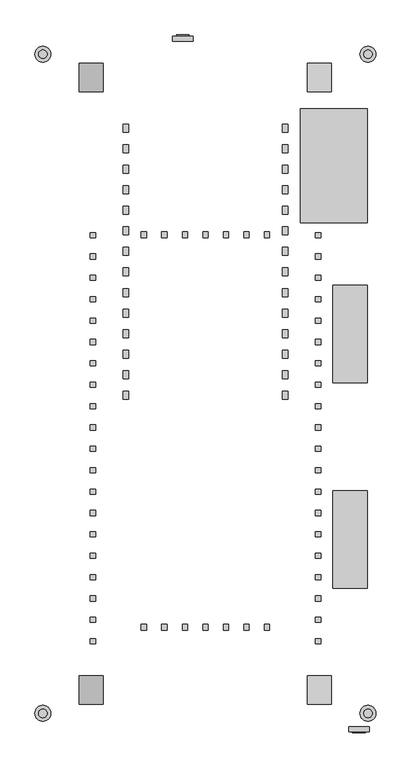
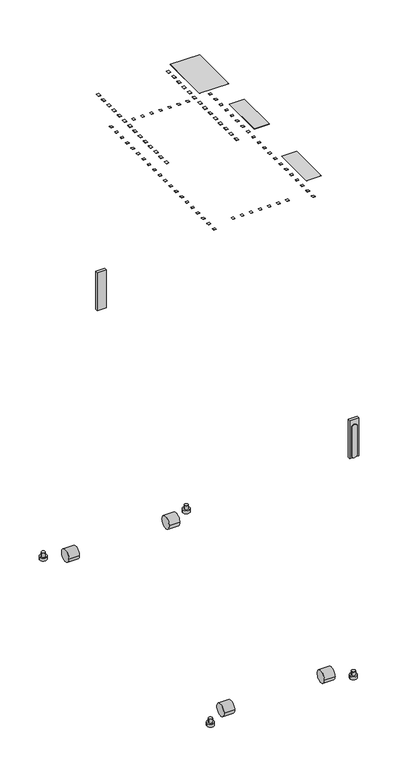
"""IFC4 building model written with IfcOpenShell, lengths in millimetres: proxy geometry, NetShelter_SX_Series_Rack_Enclosure_Schneider_Electric_BIM_Model : AR3300 - NetShelter SX, 42U, 600mm Wide X 1200mm Depth."""

from ifc_helpers import new_model, si_unit, point, frame, frame_2d, origin, place, context, project, spatial, polyline, circle_curve, trimmed, segment, composite_curve, outline, extrude, source, transform, mapped, element, save
from ifc_brep_helpers import plane_surface, cylinder_surface, advanced_brep


def mechanical_equipment_0b4dd9fd(model_context):
    return source(origin(), model_context, "Body", "SolidModel", [
        extrude(outline(polyline([(166.5, 547.0), (283.5, 547.0), (283.5, 347.0), (166.5, 347.0), (166.5, 547.0)])), frame((0.0, 0.0, 1991.0), z_axis=(0.0, 0.0, 1.0), x_axis=(1.0, 0.0, 0.0)), (0.0, 0.0, 1.0), 1.0),
        extrude(outline(polyline([(283.5, 238.0), (283.5, 67.0), (223.5, 67.0), (223.5, 238.0), (283.5, 238.0)])), frame((0.0, 0.0, 1991.0), z_axis=(0.0, 0.0, 1.0), x_axis=(1.0, 0.0, 0.0)), (0.0, 0.0, 1.0), 1.0),
        extrude(outline(polyline([(283.5, -122.0), (283.5, -293.0), (223.5, -293.0), (223.5, -122.0), (283.5, -122.0)])), frame((0.0, 0.0, 1991.0), z_axis=(0.0, 0.0, 1.0), x_axis=(1.0, 0.0, 0.0)), (0.0, 0.0, 1.0), 1.0),
        extrude(outline(composite_curve([segment(trimmed(circle_curve(frame_2d((-470.5, 25.0)), 25.0), [point((-495.5, 25.0))], [point((-445.5, 25.0))], False, "CARTESIAN"), True, "CONTINUOUS"), segment(trimmed(circle_curve(frame_2d((-470.5, 25.0)), 25.0), [point((-445.5, 25.0))], [point((-495.5, 25.0))], False, "CARTESIAN"), True, "CONTINUOUS")], self_intersect=False)), frame((-221.0, 0.0, 0.0), z_axis=(1.0, 0.0, 0.0), x_axis=(0.0, 1.0, 0.0)), (0.0, 0.0, 1.0), 42.0),
        extrude(outline(composite_curve([segment(trimmed(circle_curve(frame_2d((-470.5, 25.0)), 25.0), [point((-495.5, 25.0))], [point((-445.5, 25.0))], False, "CARTESIAN"), True, "CONTINUOUS"), segment(trimmed(circle_curve(frame_2d((-470.5, 25.0)), 25.0), [point((-445.5, 25.0))], [point((-495.5, 25.0))], False, "CARTESIAN"), True, "CONTINUOUS")], self_intersect=False)), frame((179.0, 0.0, 0.0), z_axis=(1.0, 0.0, 0.0), x_axis=(0.0, 1.0, 0.0)), (0.0, 0.0, 1.0), 42.0),
        extrude(outline(composite_curve([segment(trimmed(circle_curve(frame_2d((601.5, 25.0)), 25.0), [point((626.5, 25.0))], [point((576.5, 25.0))], False, "CARTESIAN"), True, "CONTINUOUS"), segment(trimmed(circle_curve(frame_2d((601.5, 25.0)), 25.0), [point((576.5, 25.0))], [point((626.5, 25.0))], False, "CARTESIAN"), True, "CONTINUOUS")], self_intersect=False)), frame((-221.0, 0.0, 0.0), z_axis=(1.0, 0.0, 0.0), x_axis=(0.0, 1.0, 0.0)), (0.0, 0.0, 1.0), 42.0),
        extrude(outline(composite_curve([segment(trimmed(circle_curve(frame_2d((601.5, 25.0)), 25.0), [point((626.5, 25.0))], [point((576.5, 25.0))], False, "CARTESIAN"), True, "CONTINUOUS"), segment(trimmed(circle_curve(frame_2d((601.5, 25.0)), 25.0), [point((576.5, 25.0))], [point((626.5, 25.0))], False, "CARTESIAN"), True, "CONTINUOUS")], self_intersect=False)), frame((179.0, 0.0, 0.0), z_axis=(1.0, 0.0, 0.0), x_axis=(0.0, 1.0, 0.0)), (0.0, 0.0, 1.0), 42.0),
        advanced_brep(
        [(251.3368526, -544.0499756, 1123.0590115), (251.3368526, -544.0499756, 963.0), (265.969139, -544.0499756, 963.0), (264.8974651, -544.0499756, 963.3154611), (262.9643537, -544.0499756, 964.3170777), (261.2655133, -544.0499756, 965.6659795), (257.9142777, -544.0499756, 973.9455005), (257.9142777, -544.0499756, 979.9131415), (257.9142777, -544.0499756, 981.4978364), (257.9142777, -544.0499756, 1091.5384088), (280.4225766, -544.0499756, 1091.5384088), (280.4225766, -544.0499756, 981.4978364), (280.4225766, -544.0499756, 979.9131415), (280.4225766, -544.0499756, 973.9455005), (277.071341, -544.0499756, 965.6659795), (275.3725006, -544.0499756, 964.3170777), (273.4393893, -544.0499756, 963.3154611), (272.3677154, -544.0499756, 963.0), (287.0, -544.0499756, 963.0), (287.0, -544.0499756, 1123.0590115), (251.3368526, -535.0499756, 1123.0590115), (287.0, -535.0499756, 1123.0590115), (287.0, -535.0499756, 963.0), (251.3368526, -535.0499756, 963.0), (277.071341, -546.0499756, 965.6659795), (280.4225766, -546.0499756, 973.9455005), (280.4225766, -546.0499756, 979.9131415), (280.4225766, -546.0499756, 981.4978364), (280.4225766, -546.0499756, 1091.5384088), (257.9142777, -546.0499756, 1091.5384088), (257.9142777, -546.0499756, 981.4978364), (257.9142777, -546.0499756, 979.9131415), (257.9142777, -546.0499756, 973.9455005), (261.2655133, -546.0499756, 965.6659795), (262.9643537, -546.0499756, 964.3170777), (264.8974651, -546.0499756, 963.3154611), (266.9918515, -546.0499756, 962.6989514), (269.1684272, -546.0499756, 962.4908285), (271.3450029, -546.0499756, 962.6989514), (273.4393893, -546.0499756, 963.3154611), (275.3725006, -546.0499756, 964.3170777), (266.9918515, -544.0499756, 962.6989514), (271.3450029, -544.0499756, 962.6989514), (269.1684272, -544.0499756, 962.4908285)],
        [
            (0, 1),
            (1, 2),
            (2, 3),
            (3, 4),
            (4, 5),
            (5, 6, circle_curve(frame((270.3369777, -544.0499756, 974.1557506), z_axis=(0.0, 1.0, 0.0), x_axis=(-1.0, 0.0, 0.0)), 12.4244791)),
            (6, 7),
            (7, 8),
            (8, 9),
            (9, 10, circle_curve(frame((269.1684272, -544.0499756, 1091.5384088), z_axis=(0.0, 1.0, 0.0), x_axis=(-1.0, 0.0, 0.0)), 11.2541494)),
            (10, 11),
            (11, 12),
            (12, 13),
            (13, 14, circle_curve(frame((267.9998766, -544.0499756, 974.1557506), z_axis=(0.0, 1.0, 0.0), x_axis=(-1.0, 0.0, 0.0)), 12.4244791)),
            (14, 15),
            (15, 16),
            (16, 17),
            (17, 18),
            (18, 19),
            (19, 0),
            (20, 21),
            (21, 22),
            (22, 23),
            (23, 20),
            (19, 21),
            (20, 0),
            (18, 22),
            (17, 2),
            (1, 23),
            (24, 25, circle_curve(frame((267.9998766, -546.0499756, 974.1557506), z_axis=(0.0, -1.0, 0.0), x_axis=(-1.0, 0.0, 0.0)), 12.4244791)),
            (25, 26),
            (26, 27),
            (27, 28),
            (28, 29, circle_curve(frame((269.1684272, -546.0499756, 1091.5384088), z_axis=(0.0, -1.0, 0.0), x_axis=(-1.0, 0.0, 0.0)), 11.2541494)),
            (29, 30),
            (30, 31),
            (31, 32),
            (32, 33, circle_curve(frame((270.3369777, -546.0499756, 974.1557506), z_axis=(0.0, -1.0, 0.0), x_axis=(-1.0, 0.0, 0.0)), 12.4244791)),
            (33, 34),
            (34, 35),
            (35, 36),
            (36, 37),
            (37, 38),
            (38, 39),
            (39, 40),
            (40, 24),
            (41, 2),
            (17, 42),
            (42, 43),
            (43, 41),
            (40, 15),
            (14, 24),
            (39, 16),
            (38, 42),
            (37, 43),
            (36, 41),
            (35, 3),
            (34, 4),
            (33, 5),
            (32, 6),
            (31, 7),
            (30, 8),
            (29, 9),
            (28, 10),
            (27, 11),
            (26, 12),
            (25, 13),
        ],
        [
            plane_surface(frame((287.0, -544.0499756, 1123.0590115), z_axis=(0.0, -1.0, 0.0), x_axis=(1.0, 0.0, 0.0))),
            plane_surface(frame((287.0, -535.0499756, 1123.0590115), z_axis=(0.0, 1.0, 0.0), x_axis=(-1.0, 0.0, 0.0))),
            plane_surface(frame((251.3368526, -544.0499756, 1123.0590115), z_axis=(0.0, 0.0, 1.0), x_axis=(0.0, 1.0, 0.0))),
            plane_surface(frame((287.0, -544.0499756, 1123.0590115), z_axis=(1.0, 0.0, 0.0), x_axis=(0.0, 1.0, 0.0))),
            plane_surface(frame((287.0, -544.0499756, 963.0), z_axis=(0.0, 0.0, -1.0), x_axis=(0.0, 1.0, 0.0))),
            plane_surface(frame((251.3368526, -544.0499756, 963.0), z_axis=(-1.0, 0.0, 0.0), x_axis=(0.0, 1.0, 0.0))),
            plane_surface(frame((275.3725006, -546.0499756, 964.3170777), z_axis=(0.0, -1.0, 0.0), x_axis=(-0.7831506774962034, 0.0, -0.6218319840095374))),
            plane_surface(frame((275.3725006, -544.0499756, 964.3170777), z_axis=(0.0, 1.0, 0.0), x_axis=(0.7831506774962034, 0.0, 0.6218319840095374))),
            plane_surface(frame((277.071341, -546.0499756, 965.6659795), z_axis=(0.6218319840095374, 0.0, -0.7831506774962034), x_axis=(0.0, 1.0, 0.0))),
            plane_surface(frame((275.3725006, -546.0499756, 964.3170777), z_axis=(0.4600502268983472, 0.0, -0.8878928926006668), x_axis=(0.0, 1.0, 0.0))),
            plane_surface(frame((273.4393893, -546.0499756, 963.3154611), z_axis=(0.28238288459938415, 0.0, -0.9593017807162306), x_axis=(0.0, 1.0, 0.0))),
            plane_surface(frame((271.3450029, -546.0499756, 962.6989514), z_axis=(0.09518525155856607, 0.0, -0.9954595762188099), x_axis=(0.0, 1.0, 0.0))),
            plane_surface(frame((269.1684272, -546.0499756, 962.4908285), z_axis=(-0.09518525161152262, 0.0, -0.9954595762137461), x_axis=(0.0, 1.0, 0.0))),
            plane_surface(frame((266.9918515, -546.0499756, 962.6989514), z_axis=(-0.2823828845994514, 0.0, -0.9593017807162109), x_axis=(0.0, 1.0, 0.0))),
            plane_surface(frame((264.8974651, -546.0499756, 963.3154611), z_axis=(-0.4600502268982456, 0.0, -0.8878928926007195), x_axis=(0.0, 1.0, 0.0))),
            plane_surface(frame((262.9643537, -546.0499756, 964.3170777), z_axis=(-0.6218319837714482, 0.0, -0.7831506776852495), x_axis=(0.0, 1.0, 0.0))),
            cylinder_surface(frame((270.3369777, -544.0499756, 974.1557506), z_axis=(0.0, -1.0, 0.0), x_axis=(-1.0, 0.0, 0.0)), 12.4244791),
            plane_surface(frame((257.9142777, -546.0499756, 973.9455005), z_axis=(-1.0, 0.0, 0.0), x_axis=(0.0, 1.0, 0.0))),
            plane_surface(frame((257.9142777, -546.0499756, 979.9131415), z_axis=(-1.0, 0.0, 0.0), x_axis=(0.0, 1.0, 0.0))),
            plane_surface(frame((257.9142777, -546.0499756, 981.4978364), z_axis=(-1.0, 0.0, 0.0), x_axis=(0.0, 1.0, 0.0))),
            cylinder_surface(frame((269.1684272, -544.0499756, 1091.5384088), z_axis=(0.0, -1.0, 0.0), x_axis=(-1.0, 0.0, 0.0)), 11.2541494),
            plane_surface(frame((280.4225766, -546.0499756, 1091.5384088), z_axis=(1.0, 0.0, -1.3564306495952e-10), x_axis=(0.0, 1.0, 0.0))),
            plane_surface(frame((280.4225766, -546.0499756, 981.4978364), z_axis=(1.0, 0.0, 0.0), x_axis=(0.0, 1.0, 0.0))),
            plane_surface(frame((280.4225766, -546.0499756, 979.9131415), z_axis=(1.0, 0.0, 0.0), x_axis=(0.0, 1.0, 0.0))),
            cylinder_surface(frame((267.9998766, -544.0499756, 974.1557506), z_axis=(0.0, -1.0, 0.0), x_axis=(-1.0, 0.0, 0.0)), 12.4244791),
        ],
        [
            (0, [[1, 2, 3, 4, 5, 6, 7, 8, 9, 10, 11, 12, 13, 14, 15, 16, 17, 18, 19, 20]]),
            (1, [[21, 22, 23, 24]]),
            (2, [[25, -21, 26, -20]]),
            (3, [[27, -22, -25, -19]]),
            (4, [[-27, -18, 28, -2, 29, -23]]),
            (5, [[-26, -24, -29, -1]]),
            (6, [[30, 31, 32, 33, 34, 35, 36, 37, 38, 39, 40, 41, 42, 43, 44, 45, 46]]),
            (7, [[47, -28, 48, 49, 50]]),
            (8, [[51, -15, 52, -46]]),
            (9, [[53, -16, -51, -45]]),
            (10, [[54, -48, -17, -53, -44]]),
            (11, [[55, -49, -54, -43]]),
            (12, [[56, -50, -55, -42]]),
            (13, [[57, -3, -47, -56, -41]]),
            (14, [[58, -4, -57, -40]]),
            (15, [[59, -5, -58, -39]]),
            (16, [[60, -6, -59, -38]]),
            (17, [[61, -7, -60, -37]]),
            (18, [[62, -8, -61, -36]]),
            (19, [[63, -9, -62, -35]]),
            (20, [[64, -10, -63, -34]]),
            (21, [[65, -11, -64, -33]]),
            (22, [[66, -12, -65, -32]]),
            (23, [[67, -13, -66, -31]]),
            (24, [[-52, -14, -67, -30]]),
        ],
    ),
        extrude(outline(composite_curve([segment(trimmed(circle_curve(frame_2d((285.0, -511.5)), 7.5), [point((292.5, -511.5))], [point((277.5, -511.5))], False, "CARTESIAN"), True, "CONTINUOUS"), segment(trimmed(circle_curve(frame_2d((285.0, -511.5)), 7.5), [point((277.5, -511.5))], [point((292.5, -511.5))], False, "CARTESIAN"), True, "CONTINUOUS")], self_intersect=False)), frame((0.0, 0.0, 21.0), z_axis=(0.0, 0.0, 1.0), x_axis=(1.0, 0.0, 0.0)), (0.0, 0.0, 1.0), 16.0),
        extrude(outline(composite_curve([segment(trimmed(circle_curve(frame_2d((285.0, -511.5)), 14.0), [point((299.0, -511.5))], [point((271.0, -511.5))], False, "CARTESIAN"), True, "CONTINUOUS"), segment(trimmed(circle_curve(frame_2d((285.0, -511.5)), 14.0), [point((271.0, -511.5))], [point((299.0, -511.5))], False, "CARTESIAN"), True, "CONTINUOUS")], self_intersect=False)), frame((0.0, 0.0, 9.0), z_axis=(0.0, 0.0, 1.0), x_axis=(1.0, 0.0, 0.0)), (0.0, 0.0, 1.0), 12.0),
        extrude(outline(composite_curve([segment(trimmed(circle_curve(frame_2d((-285.0, -511.5)), 7.5), [point((-292.5, -511.5))], [point((-277.5, -511.5))], False, "CARTESIAN"), True, "CONTINUOUS"), segment(trimmed(circle_curve(frame_2d((-285.0, -511.5)), 7.5), [point((-277.5, -511.5))], [point((-292.5, -511.5))], False, "CARTESIAN"), True, "CONTINUOUS")], self_intersect=False)), frame((0.0, 0.0, 21.0), z_axis=(0.0, 0.0, 1.0), x_axis=(1.0, 0.0, 0.0)), (0.0, 0.0, 1.0), 16.0),
        extrude(outline(composite_curve([segment(trimmed(circle_curve(frame_2d((-285.0, -511.5)), 14.0), [point((-299.0, -511.5))], [point((-271.0, -511.5))], False, "CARTESIAN"), True, "CONTINUOUS"), segment(trimmed(circle_curve(frame_2d((-285.0, -511.5)), 14.0), [point((-271.0, -511.5))], [point((-299.0, -511.5))], False, "CARTESIAN"), True, "CONTINUOUS")], self_intersect=False)), frame((0.0, 0.0, 9.0), z_axis=(0.0, 0.0, 1.0), x_axis=(1.0, 0.0, 0.0)), (0.0, 0.0, 1.0), 12.0),
        extrude(outline(composite_curve([segment(trimmed(circle_curve(frame_2d((285.0, 642.5)), 7.5), [point((292.5, 642.5))], [point((277.5, 642.5))], False, "CARTESIAN"), True, "CONTINUOUS"), segment(trimmed(circle_curve(frame_2d((285.0, 642.5)), 7.5), [point((277.5, 642.5))], [point((292.5, 642.5))], False, "CARTESIAN"), True, "CONTINUOUS")], self_intersect=False)), frame((0.0, 0.0, 21.0), z_axis=(0.0, 0.0, 1.0), x_axis=(1.0, 0.0, 0.0)), (0.0, 0.0, 1.0), 16.0),
        extrude(outline(composite_curve([segment(trimmed(circle_curve(frame_2d((285.0, 642.5)), 14.0), [point((299.0, 642.5))], [point((271.0, 642.5))], False, "CARTESIAN"), True, "CONTINUOUS"), segment(trimmed(circle_curve(frame_2d((285.0, 642.5)), 14.0), [point((271.0, 642.5))], [point((299.0, 642.5))], False, "CARTESIAN"), True, "CONTINUOUS")], self_intersect=False)), frame((0.0, 0.0, 9.0), z_axis=(0.0, 0.0, 1.0), x_axis=(1.0, 0.0, 0.0)), (0.0, 0.0, 1.0), 12.0),
        advanced_brep(
        [(-292.5, 642.5, 37.0), (-277.5, 642.5, 37.0), (-292.5, 642.5, 21.0), (-277.5, 642.5, 21.0), (-299.0, 642.5, 21.0), (-271.0, 642.5, 21.0), (-299.0, 642.5, 9.0), (-271.0, 642.5, 9.0)],
        [
            (0, 1, circle_curve(frame((-285.0, 642.5, 37.0), z_axis=(0.0, 0.0, 1.0), x_axis=(1.0, 0.0, 0.0)), 7.5)),
            (1, 0, circle_curve(frame((-285.0, 642.5, 37.0), z_axis=(0.0, 0.0, 1.0), x_axis=(1.0, 0.0, 0.0)), 7.5)),
            (0, 2),
            (2, 3, circle_curve(frame((-285.0, 642.5, 21.0), z_axis=(0.0, 0.0, 1.0), x_axis=(1.0, 0.0, 0.0)), 7.5)),
            (3, 1),
            (3, 2, circle_curve(frame((-285.0, 642.5, 21.0), z_axis=(0.0, 0.0, 1.0), x_axis=(1.0, 0.0, 0.0)), 7.5)),
            (4, 5, circle_curve(frame((-285.0, 642.5, 21.0), z_axis=(0.0, 0.0, 1.0), x_axis=(1.0, 0.0, 0.0)), 14.0)),
            (5, 4, circle_curve(frame((-285.0, 642.5, 21.0), z_axis=(0.0, 0.0, 1.0), x_axis=(1.0, 0.0, 0.0)), 14.0)),
            (6, 7, circle_curve(frame((-285.0, 642.5, 9.0), z_axis=(0.0, 0.0, -1.0), x_axis=(1.0, 0.0, 0.0)), 14.0)),
            (7, 6, circle_curve(frame((-285.0, 642.5, 9.0), z_axis=(0.0, 0.0, -1.0), x_axis=(1.0, 0.0, 0.0)), 14.0)),
            (4, 6),
            (7, 5),
        ],
        [
            plane_surface(frame((-277.5, 642.5, 37.0), z_axis=(0.0, 0.0, 1.0), x_axis=(0.0, 1.0, 0.0))),
            cylinder_surface(frame((-285.0, 642.5, 21.0), z_axis=(0.0, 0.0, 1.0), x_axis=(1.0, 0.0, 0.0)), 7.5),
            plane_surface(frame((-271.0, 642.5, 21.0), z_axis=(0.0, 0.0, 1.0), x_axis=(0.0, 1.0, 0.0))),
            plane_surface(frame((-271.0, 642.5, 9.0), z_axis=(0.0, 0.0, -1.0), x_axis=(0.0, -1.0, 0.0))),
            cylinder_surface(frame((-285.0, 642.5, 9.0), z_axis=(0.0, 0.0, 1.0), x_axis=(1.0, 0.0, 0.0)), 14.0),
        ],
        [
            (0, [[1, 2]]),
            (1, [[-1, 3, 4, 5]]),
            (1, [[-2, -5, 6, -3]]),
            (2, [[7, 8], [-4, -6]]),
            (3, [[9, 10]]),
            (4, [[-7, 11, -10, 12]]),
            (4, [[-8, -12, -9, -11]]),
        ],
    ),
        advanced_brep(
        [(-57.4775271, 673.9999881, 1122.0590115), (-21.8143797, 673.9999881, 1122.0590115), (-21.8143797, 673.9999881, 962.0), (-36.4466643, 673.9999881, 962.0), (-35.3749904, 673.9999881, 962.3154611), (-33.4418791, 673.9999881, 963.3170777), (-31.7430387, 673.9999881, 964.6659794), (-28.3918031, 673.9999881, 972.9455005), (-28.3918031, 673.9999881, 978.9131415), (-28.3918031, 673.9999881, 980.4978364), (-28.391803, 673.9999881, 1090.5384088), (-50.9001019, 673.9999881, 1090.5384088), (-50.900102, 673.9999881, 980.4978364), (-50.900102, 673.9999881, 978.9131415), (-50.900102, 673.9999881, 972.9455005), (-47.5488663, 673.9999881, 964.6659795), (-45.8500259, 673.9999881, 963.3170777), (-43.9169146, 673.9999881, 962.3154611), (-42.8452407, 673.9999881, 962.0), (-57.4775271, 673.9999881, 962.0), (-57.4775271, 664.9999881, 1122.0590115), (-57.4775271, 664.9999881, 962.0), (-21.8143797, 664.9999881, 962.0), (-21.8143797, 664.9999881, 1122.0590115), (-31.7430387, 675.9999881, 964.6659794), (-33.4418791, 675.9999881, 963.3170777), (-35.3749904, 675.9999881, 962.3154611), (-37.4693768, 675.9999881, 961.6989514), (-39.6459525, 675.9999881, 961.4908285), (-41.8225282, 675.9999881, 961.6989514), (-43.9169146, 675.9999881, 962.3154611), (-45.8500259, 675.9999881, 963.3170777), (-47.5488663, 675.9999881, 964.6659795), (-50.900102, 675.9999881, 972.9455005), (-50.900102, 675.9999881, 978.9131415), (-50.900102, 675.9999881, 980.4978364), (-50.900102, 675.9999881, 1090.5384088), (-28.391803, 675.9999881, 1090.5384088), (-28.3918031, 675.9999881, 980.4978364), (-28.3918031, 675.9999881, 978.9131415), (-28.3918031, 675.9999881, 972.9455005), (-41.8225282, 673.9999881, 961.6989514), (-39.6459525, 673.9999881, 961.4908285), (-37.4693768, 673.9999881, 961.6989514)],
        [
            (0, 1),
            (1, 2),
            (2, 3),
            (3, 4),
            (4, 5),
            (5, 6),
            (6, 7, circle_curve(frame((-40.814503, 673.9999881, 973.1557506), z_axis=(0.0, -1.0, 0.0), x_axis=(-1.0, 0.0, 0.0)), 12.4244791)),
            (7, 8),
            (8, 9),
            (9, 10),
            (10, 11, circle_curve(frame((-39.6459525, 673.9999881, 1090.5384088), z_axis=(0.0, -1.0, 0.0), x_axis=(-1.0, 0.0, 0.0)), 11.2541494)),
            (11, 12),
            (12, 13),
            (13, 14),
            (14, 15, circle_curve(frame((-38.477402, 673.9999881, 973.1557506), z_axis=(0.0, -1.0, 0.0), x_axis=(-1.0, 0.0, 0.0)), 12.4244791)),
            (15, 16),
            (16, 17),
            (17, 18),
            (18, 19),
            (19, 0),
            (20, 21),
            (21, 22),
            (22, 23),
            (23, 20),
            (0, 20),
            (23, 1),
            (22, 2),
            (21, 19),
            (18, 3),
            (24, 25),
            (25, 26),
            (26, 27),
            (27, 28),
            (28, 29),
            (29, 30),
            (30, 31),
            (31, 32),
            (32, 33, circle_curve(frame((-38.477402, 675.9999881, 973.1557506), z_axis=(0.0, 1.0, 0.0), x_axis=(-1.0, 0.0, 0.0)), 12.4244791)),
            (33, 34),
            (34, 35),
            (35, 36),
            (36, 37, circle_curve(frame((-39.6459525, 675.9999881, 1090.5384088), z_axis=(0.0, 1.0, 0.0), x_axis=(-1.0, 0.0, 0.0)), 11.2541494)),
            (37, 38),
            (38, 39),
            (39, 40),
            (40, 24, circle_curve(frame((-40.814503, 675.9999881, 973.1557506), z_axis=(0.0, 1.0, 0.0), x_axis=(-1.0, 0.0, 0.0)), 12.4244791)),
            (41, 42),
            (42, 43),
            (43, 3),
            (18, 41),
            (24, 6),
            (5, 25),
            (4, 26),
            (43, 27),
            (42, 28),
            (41, 29),
            (17, 30),
            (16, 31),
            (15, 32),
            (14, 33),
            (13, 34),
            (12, 35),
            (11, 36),
            (10, 37),
            (9, 38),
            (8, 39),
            (7, 40),
        ],
        [
            plane_surface(frame((-21.8143797, 673.9999881, 1122.0590115), z_axis=(0.0, 1.0, 0.0), x_axis=(1.0, 0.0, 0.0))),
            plane_surface(frame((-21.8143797, 664.9999881, 1122.0590115), z_axis=(0.0, -1.0, 0.0), x_axis=(-1.0, 0.0, 0.0))),
            plane_surface(frame((-57.4775271, 673.9999881, 1122.0590115), z_axis=(0.0, 0.0, 1.0), x_axis=(0.0, -1.0, 0.0))),
            plane_surface(frame((-21.8143797, 673.9999881, 1122.0590115), z_axis=(1.0, 0.0, 0.0), x_axis=(0.0, -1.0, 0.0))),
            plane_surface(frame((-21.8143797, 673.9999881, 962.0), z_axis=(0.0, 0.0, -1.0), x_axis=(0.0, -1.0, 0.0))),
            plane_surface(frame((-57.4775271, 673.9999881, 962.0), z_axis=(-1.0, 0.0, 0.0), x_axis=(0.0, -1.0, 0.0))),
            plane_surface(frame((-33.4418791, 675.9999881, 963.3170777), z_axis=(0.0, 1.0, 0.0), x_axis=(-0.7831506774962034, 0.0, -0.6218319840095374))),
            plane_surface(frame((-33.4418791, 673.9999881, 963.3170777), z_axis=(0.0, -1.0, 0.0), x_axis=(0.7831506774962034, 0.0, 0.6218319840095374))),
            plane_surface(frame((-31.7430387, 675.9999881, 964.6659794), z_axis=(0.6218319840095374, 0.0, -0.7831506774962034), x_axis=(0.0, -1.0, 0.0))),
            plane_surface(frame((-33.4418791, 675.9999881, 963.3170777), z_axis=(0.4600502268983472, 0.0, -0.8878928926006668), x_axis=(0.0, -1.0, 0.0))),
            plane_surface(frame((-35.3749904, 675.9999881, 962.3154611), z_axis=(0.28238288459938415, 0.0, -0.9593017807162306), x_axis=(0.0, -1.0, 0.0))),
            plane_surface(frame((-37.4693768, 675.9999881, 961.6989514), z_axis=(0.09518525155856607, 0.0, -0.9954595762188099), x_axis=(0.0, -1.0, 0.0))),
            plane_surface(frame((-39.6459525, 675.9999881, 961.4908285), z_axis=(-0.09518525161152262, 0.0, -0.9954595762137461), x_axis=(0.0, -1.0, 0.0))),
            plane_surface(frame((-41.8225282, 675.9999881, 961.6989514), z_axis=(-0.2823828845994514, 0.0, -0.9593017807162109), x_axis=(0.0, -1.0, 0.0))),
            plane_surface(frame((-43.9169146, 675.9999881, 962.3154611), z_axis=(-0.4600502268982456, 0.0, -0.8878928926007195), x_axis=(0.0, -1.0, 0.0))),
            plane_surface(frame((-45.8500259, 675.9999881, 963.3170777), z_axis=(-0.6218319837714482, 0.0, -0.7831506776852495), x_axis=(0.0, -1.0, 0.0))),
            cylinder_surface(frame((-38.477402, 673.9999881, 973.1557506), z_axis=(0.0, 1.0, 0.0), x_axis=(-1.0, 0.0, 0.0)), 12.4244791),
            plane_surface(frame((-50.900102, 675.9999881, 972.9455005), z_axis=(-1.0, 0.0, 0.0), x_axis=(0.0, -1.0, 0.0))),
            plane_surface(frame((-50.900102, 675.9999881, 978.9131415), z_axis=(-1.0, 0.0, 0.0), x_axis=(0.0, -1.0, 0.0))),
            plane_surface(frame((-50.900102, 675.9999881, 980.4978364), z_axis=(-1.0, 0.0, 0.0), x_axis=(0.0, -1.0, 0.0))),
            cylinder_surface(frame((-39.6459525, 673.9999881, 1090.5384088), z_axis=(0.0, 1.0, 0.0), x_axis=(-1.0, 0.0, 0.0)), 11.2541494),
            plane_surface(frame((-28.391803, 675.9999881, 1090.5384088), z_axis=(1.0, 0.0, -1.3564306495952e-10), x_axis=(0.0, -1.0, 0.0))),
            plane_surface(frame((-28.3918031, 675.9999881, 980.4978364), z_axis=(1.0, 0.0, 0.0), x_axis=(0.0, -1.0, 0.0))),
            plane_surface(frame((-28.3918031, 675.9999881, 978.9131415), z_axis=(1.0, 0.0, 0.0), x_axis=(0.0, -1.0, 0.0))),
            cylinder_surface(frame((-40.814503, 673.9999881, 973.1557506), z_axis=(0.0, 1.0, 0.0), x_axis=(-1.0, 0.0, 0.0)), 12.4244791),
        ],
        [
            (0, [[1, 2, 3, 4, 5, 6, 7, 8, 9, 10, 11, 12, 13, 14, 15, 16, 17, 18, 19, 20]]),
            (1, [[21, 22, 23, 24]]),
            (2, [[-1, 25, -24, 26]]),
            (3, [[-2, -26, -23, 27]]),
            (4, [[-22, 28, -19, 29, -3, -27]]),
            (5, [[-20, -28, -21, -25]]),
            (6, [[30, 31, 32, 33, 34, 35, 36, 37, 38, 39, 40, 41, 42, 43, 44, 45, 46]]),
            (7, [[47, 48, 49, -29, 50]]),
            (8, [[-30, 51, -6, 52]]),
            (9, [[-31, -52, -5, 53]]),
            (10, [[-32, -53, -4, -49, 54]]),
            (11, [[-33, -54, -48, 55]]),
            (12, [[-34, -55, -47, 56]]),
            (13, [[-35, -56, -50, -18, 57]]),
            (14, [[-36, -57, -17, 58]]),
            (15, [[-37, -58, -16, 59]]),
            (16, [[-38, -59, -15, 60]]),
            (17, [[-39, -60, -14, 61]]),
            (18, [[-40, -61, -13, 62]]),
            (19, [[-41, -62, -12, 63]]),
            (20, [[-42, -63, -11, 64]]),
            (21, [[-43, -64, -10, 65]]),
            (22, [[-44, -65, -9, 66]]),
            (23, [[-45, -66, -8, 67]]),
            (24, [[-46, -67, -7, -51]]),
        ],
    ),
        extrude(outline(polyline([(-202.5000006, 292.5740431), (-192.4999952, 292.5740431), (-192.4999952, 283.5740397), (-202.5000006, 283.5740397), (-202.5000006, 292.5740431)])), frame((0.0, 0.0, 1991.0), z_axis=(0.0, 0.0, 1.0), x_axis=(1.0, 0.0, 0.0)), (0.0, 0.0, 1.0), 1.0),
        extrude(outline(polyline([(192.4999952, 292.5740431), (202.5000006, 292.5740431), (202.5000006, 283.5740397), (192.4999952, 283.5740397), (192.4999952, 292.5740431)])), frame((0.0, 0.0, 1991.0), z_axis=(0.0, 0.0, 1.0), x_axis=(1.0, 0.0, 0.0)), (0.0, 0.0, 1.0), 1.0),
        extrude(outline(polyline([(-134.7000003, 519.9992911), (-134.7000003, 505.9992925), (-144.5000023, 505.9992925), (-144.5000023, 519.9992911), (-134.7000003, 519.9992911)])), frame((0.0, 0.0, 1991.0), z_axis=(0.0, 0.0, 1.0), x_axis=(1.0, 0.0, 0.0)), (0.0, 0.0, 1.0), 1.0),
        extrude(outline(polyline([(144.5000023, 519.9992911), (144.5000023, 505.9992925), (134.7000003, 505.9992925), (134.7000003, 519.9992911), (144.5000023, 519.9992911)])), frame((0.0, 0.0, 1991.0), z_axis=(0.0, 0.0, 1.0), x_axis=(1.0, 0.0, 0.0)), (0.0, 0.0, 1.0), 1.0),
        extrude(outline(polyline([(-134.7000003, 483.9985822), (-134.7000003, 469.9985836), (-144.5000023, 469.9985836), (-144.5000023, 483.9985822), (-134.7000003, 483.9985822)])), frame((0.0, 0.0, 1991.0), z_axis=(0.0, 0.0, 1.0), x_axis=(1.0, 0.0, 0.0)), (0.0, 0.0, 1.0), 1.0),
        extrude(outline(polyline([(144.5000023, 483.9985822), (144.5000023, 469.9985836), (134.7000003, 469.9985836), (134.7000003, 483.9985822), (144.5000023, 483.9985822)])), frame((0.0, 0.0, 1991.0), z_axis=(0.0, 0.0, 1.0), x_axis=(1.0, 0.0, 0.0)), (0.0, 0.0, 1.0), 1.0),
        extrude(outline(polyline([(-134.7000003, 447.9978733), (-134.7000003, 433.9978747), (-144.5000023, 433.9978747), (-144.5000023, 447.9978733), (-134.7000003, 447.9978733)])), frame((0.0, 0.0, 1991.0), z_axis=(0.0, 0.0, 1.0), x_axis=(1.0, 0.0, 0.0)), (0.0, 0.0, 1.0), 1.0),
        extrude(outline(polyline([(144.5000023, 447.9978733), (144.5000023, 433.9978747), (134.7000003, 433.9978747), (134.7000003, 447.9978733), (144.5000023, 447.9978733)])), frame((0.0, 0.0, 1991.0), z_axis=(0.0, 0.0, 1.0), x_axis=(1.0, 0.0, 0.0)), (0.0, 0.0, 1.0), 1.0),
        extrude(outline(polyline([(-134.7000003, 411.9971643), (-134.7000003, 397.9971658), (-144.5000023, 397.9971658), (-144.5000023, 411.9971643), (-134.7000003, 411.9971643)])), frame((0.0, 0.0, 1991.0), z_axis=(0.0, 0.0, 1.0), x_axis=(1.0, 0.0, 0.0)), (0.0, 0.0, 1.0), 1.0),
        extrude(outline(polyline([(144.5000023, 411.9971643), (144.5000023, 397.9971658), (134.7000003, 397.9971658), (134.7000003, 411.9971643), (144.5000023, 411.9971643)])), frame((0.0, 0.0, 1991.0), z_axis=(0.0, 0.0, 1.0), x_axis=(1.0, 0.0, 0.0)), (0.0, 0.0, 1.0), 1.0),
        extrude(outline(polyline([(-134.7000003, 375.9964554), (-134.7000003, 361.9964569), (-144.5000023, 361.9964569), (-144.5000023, 375.9964554), (-134.7000003, 375.9964554)])), frame((0.0, 0.0, 1991.0), z_axis=(0.0, 0.0, 1.0), x_axis=(1.0, 0.0, 0.0)), (0.0, 0.0, 1.0), 1.0),
        extrude(outline(polyline([(144.5000023, 375.9964554), (144.5000023, 361.9964569), (134.7000003, 361.9964569), (134.7000003, 375.9964554), (144.5000023, 375.9964554)])), frame((0.0, 0.0, 1991.0), z_axis=(0.0, 0.0, 1.0), x_axis=(1.0, 0.0, 0.0)), (0.0, 0.0, 1.0), 1.0),
        extrude(outline(polyline([(-134.7000003, 339.9957465), (-134.7000003, 325.9957479), (-144.5000023, 325.9957479), (-144.5000023, 339.9957465), (-134.7000003, 339.9957465)])), frame((0.0, 0.0, 1991.0), z_axis=(0.0, 0.0, 1.0), x_axis=(1.0, 0.0, 0.0)), (0.0, 0.0, 1.0), 1.0),
        extrude(outline(polyline([(144.5000023, 339.9957465), (144.5000023, 325.9957479), (134.7000003, 325.9957479), (134.7000003, 339.9957465), (144.5000023, 339.9957465)])), frame((0.0, 0.0, 1991.0), z_axis=(0.0, 0.0, 1.0), x_axis=(1.0, 0.0, 0.0)), (0.0, 0.0, 1.0), 1.0),
        extrude(outline(polyline([(-134.7000003, 303.9950376), (-134.7000003, 289.995039), (-144.5000023, 289.995039), (-144.5000023, 303.9950376), (-134.7000003, 303.9950376)])), frame((0.0, 0.0, 1991.0), z_axis=(0.0, 0.0, 1.0), x_axis=(1.0, 0.0, 0.0)), (0.0, 0.0, 1.0), 1.0),
        extrude(outline(polyline([(144.5000023, 303.9950376), (144.5000023, 289.995039), (134.7000003, 289.995039), (134.7000003, 303.9950376), (144.5000023, 303.9950376)])), frame((0.0, 0.0, 1991.0), z_axis=(0.0, 0.0, 1.0), x_axis=(1.0, 0.0, 0.0)), (0.0, 0.0, 1.0), 1.0),
        extrude(outline(polyline([(-134.7000003, 267.9943287), (-134.7000003, 253.9943301), (-144.5000023, 253.9943301), (-144.5000023, 267.9943287), (-134.7000003, 267.9943287)])), frame((0.0, 0.0, 1991.0), z_axis=(0.0, 0.0, 1.0), x_axis=(1.0, 0.0, 0.0)), (0.0, 0.0, 1.0), 1.0),
        extrude(outline(polyline([(144.5000023, 267.9943287), (144.5000023, 253.9943301), (134.7000003, 253.9943301), (134.7000003, 267.9943287), (144.5000023, 267.9943287)])), frame((0.0, 0.0, 1991.0), z_axis=(0.0, 0.0, 1.0), x_axis=(1.0, 0.0, 0.0)), (0.0, 0.0, 1.0), 1.0),
        extrude(outline(polyline([(76.4999998, -365.919142), (67.5000039, -365.919142), (67.5000039, -355.9191515), (76.4999998, -355.9191515), (76.4999998, -365.919142)])), frame((0.0, 0.0, 1991.0), z_axis=(0.0, 0.0, 1.0), x_axis=(1.0, 0.0, 0.0)), (0.0, 0.0, 1.0), 1.0),
        extrude(outline(polyline([(76.4999998, 321.0808645), (67.5000039, 321.0808645), (67.5000039, 331.0808549), (76.4999998, 331.0808549), (76.4999998, 321.0808645)])), frame((0.0, 0.0, 1991.0), z_axis=(0.0, 0.0, 1.0), x_axis=(1.0, 0.0, 0.0)), (0.0, 0.0, 1.0), 1.0),
        extrude(outline(polyline([(-202.5000006, 255.1480862), (-192.4999952, 255.1480862), (-192.4999952, 246.1480828), (-202.5000006, 246.1480828), (-202.5000006, 255.1480862)])), frame((0.0, 0.0, 1991.0), z_axis=(0.0, 0.0, 1.0), x_axis=(1.0, 0.0, 0.0)), (0.0, 0.0, 1.0), 1.0),
        extrude(outline(polyline([(192.4999952, 255.1480862), (202.5000006, 255.1480862), (202.5000006, 246.1480828), (192.4999952, 246.1480828), (192.4999952, 255.1480862)])), frame((0.0, 0.0, 1991.0), z_axis=(0.0, 0.0, 1.0), x_axis=(1.0, 0.0, 0.0)), (0.0, 0.0, 1.0), 1.0),
        extrude(outline(polyline([(-202.5000006, 217.7221293), (-192.4999952, 217.7221293), (-192.4999952, 208.7221259), (-202.5000006, 208.7221259), (-202.5000006, 217.7221293)])), frame((0.0, 0.0, 1991.0), z_axis=(0.0, 0.0, 1.0), x_axis=(1.0, 0.0, 0.0)), (0.0, 0.0, 1.0), 1.0),
        extrude(outline(polyline([(192.4999952, 217.7221293), (202.5000006, 217.7221293), (202.5000006, 208.7221259), (192.4999952, 208.7221259), (192.4999952, 217.7221293)])), frame((0.0, 0.0, 1991.0), z_axis=(0.0, 0.0, 1.0), x_axis=(1.0, 0.0, 0.0)), (0.0, 0.0, 1.0), 1.0),
        extrude(outline(polyline([(-202.5000006, 180.2961723), (-192.4999952, 180.2961723), (-192.4999952, 171.296169), (-202.5000006, 171.296169), (-202.5000006, 180.2961723)])), frame((0.0, 0.0, 1991.0), z_axis=(0.0, 0.0, 1.0), x_axis=(1.0, 0.0, 0.0)), (0.0, 0.0, 1.0), 1.0),
        extrude(outline(polyline([(192.4999952, 180.2961723), (202.5000006, 180.2961723), (202.5000006, 171.296169), (192.4999952, 171.296169), (192.4999952, 180.2961723)])), frame((0.0, 0.0, 1991.0), z_axis=(0.0, 0.0, 1.0), x_axis=(1.0, 0.0, 0.0)), (0.0, 0.0, 1.0), 1.0),
        extrude(outline(polyline([(-202.5000006, 142.8702154), (-192.4999952, 142.8702154), (-192.4999952, 133.8702121), (-202.5000006, 133.8702121), (-202.5000006, 142.8702154)])), frame((0.0, 0.0, 1991.0), z_axis=(0.0, 0.0, 1.0), x_axis=(1.0, 0.0, 0.0)), (0.0, 0.0, 1.0), 1.0),
        extrude(outline(polyline([(192.4999952, 142.8702154), (202.5000006, 142.8702154), (202.5000006, 133.8702121), (192.4999952, 133.8702121), (192.4999952, 142.8702154)])), frame((0.0, 0.0, 1991.0), z_axis=(0.0, 0.0, 1.0), x_axis=(1.0, 0.0, 0.0)), (0.0, 0.0, 1.0), 1.0),
        extrude(outline(polyline([(-202.5000006, 105.4442585), (-192.4999952, 105.4442585), (-192.4999952, 96.4442552), (-202.5000006, 96.4442552), (-202.5000006, 105.4442585)])), frame((0.0, 0.0, 1991.0), z_axis=(0.0, 0.0, 1.0), x_axis=(1.0, 0.0, 0.0)), (0.0, 0.0, 1.0), 1.0),
        extrude(outline(polyline([(192.4999952, 105.4442585), (202.5000006, 105.4442585), (202.5000006, 96.4442552), (192.4999952, 96.4442552), (192.4999952, 105.4442585)])), frame((0.0, 0.0, 1991.0), z_axis=(0.0, 0.0, 1.0), x_axis=(1.0, 0.0, 0.0)), (0.0, 0.0, 1.0), 1.0),
        extrude(outline(polyline([(-202.5000006, 68.0183016), (-192.4999952, 68.0183016), (-192.4999952, 59.0182983), (-202.5000006, 59.0182983), (-202.5000006, 68.0183016)])), frame((0.0, 0.0, 1991.0), z_axis=(0.0, 0.0, 1.0), x_axis=(1.0, 0.0, 0.0)), (0.0, 0.0, 1.0), 1.0),
        extrude(outline(polyline([(192.4999952, 68.0183016), (202.5000006, 68.0183016), (202.5000006, 59.0182983), (192.4999952, 59.0182983), (192.4999952, 68.0183016)])), frame((0.0, 0.0, 1991.0), z_axis=(0.0, 0.0, 1.0), x_axis=(1.0, 0.0, 0.0)), (0.0, 0.0, 1.0), 1.0),
        extrude(outline(polyline([(-202.5000006, 30.5923447), (-192.4999952, 30.5923447), (-192.4999952, 21.5923413), (-202.5000006, 21.5923413), (-202.5000006, 30.5923447)])), frame((0.0, 0.0, 1991.0), z_axis=(0.0, 0.0, 1.0), x_axis=(1.0, 0.0, 0.0)), (0.0, 0.0, 1.0), 1.0),
        extrude(outline(polyline([(192.4999952, 30.5923447), (202.5000006, 30.5923447), (202.5000006, 21.5923413), (192.4999952, 21.5923413), (192.4999952, 30.5923447)])), frame((0.0, 0.0, 1991.0), z_axis=(0.0, 0.0, 1.0), x_axis=(1.0, 0.0, 0.0)), (0.0, 0.0, 1.0), 1.0),
        extrude(outline(polyline([(-202.5000006, -6.8336122), (-192.4999952, -6.8336122), (-192.4999952, -15.8336156), (-202.5000006, -15.8336156), (-202.5000006, -6.8336122)])), frame((0.0, 0.0, 1991.0), z_axis=(0.0, 0.0, 1.0), x_axis=(1.0, 0.0, 0.0)), (0.0, 0.0, 1.0), 1.0),
        extrude(outline(polyline([(192.4999952, -6.8336122), (202.5000006, -6.8336122), (202.5000006, -15.8336156), (192.4999952, -15.8336156), (192.4999952, -6.8336122)])), frame((0.0, 0.0, 1991.0), z_axis=(0.0, 0.0, 1.0), x_axis=(1.0, 0.0, 0.0)), (0.0, 0.0, 1.0), 1.0),
        extrude(outline(polyline([(-202.5000006, -44.2595692), (-192.4999952, -44.2595692), (-192.4999952, -53.2595725), (-202.5000006, -53.2595725), (-202.5000006, -44.2595692)])), frame((0.0, 0.0, 1991.0), z_axis=(0.0, 0.0, 1.0), x_axis=(1.0, 0.0, 0.0)), (0.0, 0.0, 1.0), 1.0),
        extrude(outline(polyline([(192.4999952, -44.2595692), (202.5000006, -44.2595692), (202.5000006, -53.2595725), (192.4999952, -53.2595725), (192.4999952, -44.2595692)])), frame((0.0, 0.0, 1991.0), z_axis=(0.0, 0.0, 1.0), x_axis=(1.0, 0.0, 0.0)), (0.0, 0.0, 1.0), 1.0),
        extrude(outline(polyline([(-202.5000006, -81.6855261), (-192.4999952, -81.6855261), (-192.4999952, -90.6855294), (-202.5000006, -90.6855294), (-202.5000006, -81.6855261)])), frame((0.0, 0.0, 1991.0), z_axis=(0.0, 0.0, 1.0), x_axis=(1.0, 0.0, 0.0)), (0.0, 0.0, 1.0), 1.0),
        extrude(outline(polyline([(192.4999952, -81.6855261), (202.5000006, -81.6855261), (202.5000006, -90.6855294), (192.4999952, -90.6855294), (192.4999952, -81.6855261)])), frame((0.0, 0.0, 1991.0), z_axis=(0.0, 0.0, 1.0), x_axis=(1.0, 0.0, 0.0)), (0.0, 0.0, 1.0), 1.0),
        extrude(outline(polyline([(-202.5000006, -119.111483), (-192.4999952, -119.111483), (-192.4999952, -128.1114863), (-202.5000006, -128.1114863), (-202.5000006, -119.111483)])), frame((0.0, 0.0, 1991.0), z_axis=(0.0, 0.0, 1.0), x_axis=(1.0, 0.0, 0.0)), (0.0, 0.0, 1.0), 1.0),
        extrude(outline(polyline([(192.4999952, -119.111483), (202.5000006, -119.111483), (202.5000006, -128.1114863), (192.4999952, -128.1114863), (192.4999952, -119.111483)])), frame((0.0, 0.0, 1991.0), z_axis=(0.0, 0.0, 1.0), x_axis=(1.0, 0.0, 0.0)), (0.0, 0.0, 1.0), 1.0),
        extrude(outline(polyline([(-202.5000006, -156.5374399), (-192.4999952, -156.5374399), (-192.4999952, -165.5374432), (-202.5000006, -165.5374432), (-202.5000006, -156.5374399)])), frame((0.0, 0.0, 1991.0), z_axis=(0.0, 0.0, 1.0), x_axis=(1.0, 0.0, 0.0)), (0.0, 0.0, 1.0), 1.0),
        extrude(outline(polyline([(192.4999952, -156.5374399), (202.5000006, -156.5374399), (202.5000006, -165.5374432), (192.4999952, -165.5374432), (192.4999952, -156.5374399)])), frame((0.0, 0.0, 1991.0), z_axis=(0.0, 0.0, 1.0), x_axis=(1.0, 0.0, 0.0)), (0.0, 0.0, 1.0), 1.0),
        extrude(outline(polyline([(-202.5000006, -193.9633968), (-192.4999952, -193.9633968), (-192.4999952, -202.9634002), (-202.5000006, -202.9634002), (-202.5000006, -193.9633968)])), frame((0.0, 0.0, 1991.0), z_axis=(0.0, 0.0, 1.0), x_axis=(1.0, 0.0, 0.0)), (0.0, 0.0, 1.0), 1.0),
        extrude(outline(polyline([(192.4999952, -193.9633968), (202.5000006, -193.9633968), (202.5000006, -202.9634002), (192.4999952, -202.9634002), (192.4999952, -193.9633968)])), frame((0.0, 0.0, 1991.0), z_axis=(0.0, 0.0, 1.0), x_axis=(1.0, 0.0, 0.0)), (0.0, 0.0, 1.0), 1.0),
        extrude(outline(polyline([(-202.5000006, -231.3893537), (-192.4999952, -231.3893537), (-192.4999952, -240.3893571), (-202.5000006, -240.3893571), (-202.5000006, -231.3893537)])), frame((0.0, 0.0, 1991.0), z_axis=(0.0, 0.0, 1.0), x_axis=(1.0, 0.0, 0.0)), (0.0, 0.0, 1.0), 1.0),
        extrude(outline(polyline([(192.4999952, -231.3893537), (202.5000006, -231.3893537), (202.5000006, -240.3893571), (192.4999952, -240.3893571), (192.4999952, -231.3893537)])), frame((0.0, 0.0, 1991.0), z_axis=(0.0, 0.0, 1.0), x_axis=(1.0, 0.0, 0.0)), (0.0, 0.0, 1.0), 1.0),
        extrude(outline(polyline([(-202.5000006, -268.8153106), (-192.4999952, -268.8153106), (-192.4999952, -277.815314), (-202.5000006, -277.815314), (-202.5000006, -268.8153106)])), frame((0.0, 0.0, 1991.0), z_axis=(0.0, 0.0, 1.0), x_axis=(1.0, 0.0, 0.0)), (0.0, 0.0, 1.0), 1.0),
        extrude(outline(polyline([(192.4999952, -268.8153106), (202.5000006, -268.8153106), (202.5000006, -277.815314), (192.4999952, -277.815314), (192.4999952, -268.8153106)])), frame((0.0, 0.0, 1991.0), z_axis=(0.0, 0.0, 1.0), x_axis=(1.0, 0.0, 0.0)), (0.0, 0.0, 1.0), 1.0),
        extrude(outline(polyline([(-202.5000006, -306.2412676), (-192.4999952, -306.2412676), (-192.4999952, -315.2412709), (-202.5000006, -315.2412709), (-202.5000006, -306.2412676)])), frame((0.0, 0.0, 1991.0), z_axis=(0.0, 0.0, 1.0), x_axis=(1.0, 0.0, 0.0)), (0.0, 0.0, 1.0), 1.0),
        extrude(outline(polyline([(192.4999952, -306.2412676), (202.5000006, -306.2412676), (202.5000006, -315.2412709), (192.4999952, -315.2412709), (192.4999952, -306.2412676)])), frame((0.0, 0.0, 1991.0), z_axis=(0.0, 0.0, 1.0), x_axis=(1.0, 0.0, 0.0)), (0.0, 0.0, 1.0), 1.0),
        extrude(outline(polyline([(-202.5000006, -343.6672245), (-192.4999952, -343.6672245), (-192.4999952, -352.6672278), (-202.5000006, -352.6672278), (-202.5000006, -343.6672245)])), frame((0.0, 0.0, 1991.0), z_axis=(0.0, 0.0, 1.0), x_axis=(1.0, 0.0, 0.0)), (0.0, 0.0, 1.0), 1.0),
        extrude(outline(polyline([(192.4999952, -343.6672245), (202.5000006, -343.6672245), (202.5000006, -352.6672278), (192.4999952, -352.6672278), (192.4999952, -343.6672245)])), frame((0.0, 0.0, 1991.0), z_axis=(0.0, 0.0, 1.0), x_axis=(1.0, 0.0, 0.0)), (0.0, 0.0, 1.0), 1.0),
        extrude(outline(polyline([(-202.5000006, -381.0931814), (-192.4999952, -381.0931814), (-192.4999952, -390.0931847), (-202.5000006, -390.0931847), (-202.5000006, -381.0931814)])), frame((0.0, 0.0, 1991.0), z_axis=(0.0, 0.0, 1.0), x_axis=(1.0, 0.0, 0.0)), (0.0, 0.0, 1.0), 1.0),
        extrude(outline(polyline([(192.4999952, -381.0931814), (202.5000006, -381.0931814), (202.5000006, -390.0931847), (192.4999952, -390.0931847), (192.4999952, -381.0931814)])), frame((0.0, 0.0, 1991.0), z_axis=(0.0, 0.0, 1.0), x_axis=(1.0, 0.0, 0.0)), (0.0, 0.0, 1.0), 1.0),
        extrude(outline(polyline([(-202.5000006, 330.0), (-192.4999952, 330.0), (-192.4999952, 320.9999967), (-202.5000006, 320.9999967), (-202.5000006, 330.0)])), frame((0.0, 0.0, 1991.0), z_axis=(0.0, 0.0, 1.0), x_axis=(1.0, 0.0, 0.0)), (0.0, 0.0, 1.0), 1.0),
        extrude(outline(polyline([(192.4999952, 330.0), (202.5000006, 330.0), (202.5000006, 320.9999967), (192.4999952, 320.9999967), (192.4999952, 330.0)])), frame((0.0, 0.0, 1991.0), z_axis=(0.0, 0.0, 1.0), x_axis=(1.0, 0.0, 0.0)), (0.0, 0.0, 1.0), 1.0),
        extrude(outline(polyline([(40.4999996, -365.919142), (31.5000037, -365.919142), (31.5000037, -355.9191515), (40.4999996, -355.9191515), (40.4999996, -365.919142)])), frame((0.0, 0.0, 1991.0), z_axis=(0.0, 0.0, 1.0), x_axis=(1.0, 0.0, 0.0)), (0.0, 0.0, 1.0), 1.0),
        extrude(outline(polyline([(4.4999994, -365.919142), (-4.4999965, -365.919142), (-4.4999965, -355.9191515), (4.4999994, -355.9191515), (4.4999994, -365.919142)])), frame((0.0, 0.0, 1991.0), z_axis=(0.0, 0.0, 1.0), x_axis=(1.0, 0.0, 0.0)), (0.0, 0.0, 1.0), 1.0),
        extrude(outline(polyline([(-31.5000008, -365.919142), (-40.4999966, -365.919142), (-40.4999966, -355.9191515), (-31.5000008, -355.9191515), (-31.5000008, -365.919142)])), frame((0.0, 0.0, 1991.0), z_axis=(0.0, 0.0, 1.0), x_axis=(1.0, 0.0, 0.0)), (0.0, 0.0, 1.0), 1.0),
        extrude(outline(polyline([(-67.5000009, -365.919142), (-76.4999968, -365.919142), (-76.4999968, -355.9191515), (-67.5000009, -355.9191515), (-67.5000009, -365.919142)])), frame((0.0, 0.0, 1991.0), z_axis=(0.0, 0.0, 1.0), x_axis=(1.0, 0.0, 0.0)), (0.0, 0.0, 1.0), 1.0),
        extrude(outline(polyline([(40.4999996, 321.0808645), (31.5000037, 321.0808645), (31.5000037, 331.0808549), (40.4999996, 331.0808549), (40.4999996, 321.0808645)])), frame((0.0, 0.0, 1991.0), z_axis=(0.0, 0.0, 1.0), x_axis=(1.0, 0.0, 0.0)), (0.0, 0.0, 1.0), 1.0),
        extrude(outline(polyline([(4.4999994, 321.0808645), (-4.4999965, 321.0808645), (-4.4999965, 331.0808549), (4.4999994, 331.0808549), (4.4999994, 321.0808645)])), frame((0.0, 0.0, 1991.0), z_axis=(0.0, 0.0, 1.0), x_axis=(1.0, 0.0, 0.0)), (0.0, 0.0, 1.0), 1.0),
        extrude(outline(polyline([(-31.5000008, 321.0808645), (-40.4999966, 321.0808645), (-40.4999966, 331.0808549), (-31.5000008, 331.0808549), (-31.5000008, 321.0808645)])), frame((0.0, 0.0, 1991.0), z_axis=(0.0, 0.0, 1.0), x_axis=(1.0, 0.0, 0.0)), (0.0, 0.0, 1.0), 1.0),
        extrude(outline(polyline([(-67.5000009, 321.0808645), (-76.4999968, 321.0808645), (-76.4999968, 331.0808549), (-67.5000009, 331.0808549), (-67.5000009, 321.0808645)])), frame((0.0, 0.0, 1991.0), z_axis=(0.0, 0.0, 1.0), x_axis=(1.0, 0.0, 0.0)), (0.0, 0.0, 1.0), 1.0),
        extrude(outline(polyline([(112.5, -365.919142), (103.5000041, -365.919142), (103.5000041, -355.9191515), (112.5, -355.9191515), (112.5, -365.919142)])), frame((0.0, 0.0, 1991.0), z_axis=(0.0, 0.0, 1.0), x_axis=(1.0, 0.0, 0.0)), (0.0, 0.0, 1.0), 1.0),
        extrude(outline(polyline([(-103.5000011, -365.919142), (-112.499997, -365.919142), (-112.499997, -355.9191515), (-103.5000011, -355.9191515), (-103.5000011, -365.919142)])), frame((0.0, 0.0, 1991.0), z_axis=(0.0, 0.0, 1.0), x_axis=(1.0, 0.0, 0.0)), (0.0, 0.0, 1.0), 1.0),
        extrude(outline(polyline([(112.5, 321.0808645), (103.5000041, 321.0808645), (103.5000041, 331.0808549), (112.5, 331.0808549), (112.5, 321.0808645)])), frame((0.0, 0.0, 1991.0), z_axis=(0.0, 0.0, 1.0), x_axis=(1.0, 0.0, 0.0)), (0.0, 0.0, 1.0), 1.0),
        extrude(outline(polyline([(-103.5000011, 321.0808645), (-112.499997, 321.0808645), (-112.499997, 331.0808549), (-103.5000011, 331.0808549), (-103.5000011, 321.0808645)])), frame((0.0, 0.0, 1991.0), z_axis=(0.0, 0.0, 1.0), x_axis=(1.0, 0.0, 0.0)), (0.0, 0.0, 1.0), 1.0),
        extrude(outline(polyline([(-134.7000003, 231.9936198), (-134.7000003, 217.9936212), (-144.5000023, 217.9936212), (-144.5000023, 231.9936198), (-134.7000003, 231.9936198)])), frame((0.0, 0.0, 1991.0), z_axis=(0.0, 0.0, 1.0), x_axis=(1.0, 0.0, 0.0)), (0.0, 0.0, 1.0), 1.0),
        extrude(outline(polyline([(144.5000023, 231.9936198), (144.5000023, 217.9936212), (134.7000003, 217.9936212), (134.7000003, 231.9936198), (144.5000023, 231.9936198)])), frame((0.0, 0.0, 1991.0), z_axis=(0.0, 0.0, 1.0), x_axis=(1.0, 0.0, 0.0)), (0.0, 0.0, 1.0), 1.0),
        extrude(outline(polyline([(-134.7000003, 195.9929109), (-134.7000003, 181.9929123), (-144.5000023, 181.9929123), (-144.5000023, 195.9929109), (-134.7000003, 195.9929109)])), frame((0.0, 0.0, 1991.0), z_axis=(0.0, 0.0, 1.0), x_axis=(1.0, 0.0, 0.0)), (0.0, 0.0, 1.0), 1.0),
        extrude(outline(polyline([(144.5000023, 195.9929109), (144.5000023, 181.9929123), (134.7000003, 181.9929123), (134.7000003, 195.9929109), (144.5000023, 195.9929109)])), frame((0.0, 0.0, 1991.0), z_axis=(0.0, 0.0, 1.0), x_axis=(1.0, 0.0, 0.0)), (0.0, 0.0, 1.0), 1.0),
        extrude(outline(polyline([(-134.7000003, 159.9922019), (-134.7000003, 145.9922034), (-144.5000023, 145.9922034), (-144.5000023, 159.9922019), (-134.7000003, 159.9922019)])), frame((0.0, 0.0, 1991.0), z_axis=(0.0, 0.0, 1.0), x_axis=(1.0, 0.0, 0.0)), (0.0, 0.0, 1.0), 1.0),
        extrude(outline(polyline([(144.5000023, 159.9922019), (144.5000023, 145.9922034), (134.7000003, 145.9922034), (134.7000003, 159.9922019), (144.5000023, 159.9922019)])), frame((0.0, 0.0, 1991.0), z_axis=(0.0, 0.0, 1.0), x_axis=(1.0, 0.0, 0.0)), (0.0, 0.0, 1.0), 1.0),
        extrude(outline(polyline([(-134.7000003, 123.991493), (-134.7000003, 109.9914945), (-144.5000023, 109.9914945), (-144.5000023, 123.991493), (-134.7000003, 123.991493)])), frame((0.0, 0.0, 1991.0), z_axis=(0.0, 0.0, 1.0), x_axis=(1.0, 0.0, 0.0)), (0.0, 0.0, 1.0), 1.0),
        extrude(outline(polyline([(144.5000023, 123.991493), (144.5000023, 109.9914945), (134.7000003, 109.9914945), (134.7000003, 123.991493), (144.5000023, 123.991493)])), frame((0.0, 0.0, 1991.0), z_axis=(0.0, 0.0, 1.0), x_axis=(1.0, 0.0, 0.0)), (0.0, 0.0, 1.0), 1.0),
        extrude(outline(polyline([(-134.7000003, 87.9907841), (-134.7000003, 73.9907855), (-144.5000023, 73.9907855), (-144.5000023, 87.9907841), (-134.7000003, 87.9907841)])), frame((0.0, 0.0, 1991.0), z_axis=(0.0, 0.0, 1.0), x_axis=(1.0, 0.0, 0.0)), (0.0, 0.0, 1.0), 1.0),
        extrude(outline(polyline([(144.5000023, 87.9907841), (144.5000023, 73.9907855), (134.7000003, 73.9907855), (134.7000003, 87.9907841), (144.5000023, 87.9907841)])), frame((0.0, 0.0, 1991.0), z_axis=(0.0, 0.0, 1.0), x_axis=(1.0, 0.0, 0.0)), (0.0, 0.0, 1.0), 1.0),
        extrude(outline(polyline([(-134.7000003, 51.9900752), (-134.7000003, 37.9900766), (-144.5000023, 37.9900766), (-144.5000023, 51.9900752), (-134.7000003, 51.9900752)])), frame((0.0, 0.0, 1991.0), z_axis=(0.0, 0.0, 1.0), x_axis=(1.0, 0.0, 0.0)), (0.0, 0.0, 1.0), 1.0),
        extrude(outline(polyline([(144.5000023, 51.9900752), (144.5000023, 37.9900766), (134.7000003, 37.9900766), (134.7000003, 51.9900752), (144.5000023, 51.9900752)])), frame((0.0, 0.0, 1991.0), z_axis=(0.0, 0.0, 1.0), x_axis=(1.0, 0.0, 0.0)), (0.0, 0.0, 1.0), 1.0),
    ])


if __name__ == "__main__":
    model = new_model("IFC4")
    model_context = context("Model", 3, world=origin())
    ifc_project = project(units=[si_unit("LENGTHUNIT", "METRE", prefix="MILLI")], contexts=[model_context])
    site = spatial("IfcSite", under=ifc_project)
    building = spatial("IfcBuilding", under=site)
    placement = place(None, origin())
    mechanical_equipment_shape = mechanical_equipment_0b4dd9fd(model_context)
    element("IfcBuildingElementProxy", 1, Name="NetShelter_SX_Series_Rack_Enclosure_Schneider_Electric_BIM_Model : AR3300 - NetShelter SX, 42U, 600mm Wide X 1200mm Depth", ObjectType="NetShelter_SX_Series_Rack_Enclosure_Schneider_Electric_BIM_Model : AR3300 - NetShelter SX, 42U, 600mm Wide X 1200mm Depth", at=placement, inside=building, context=model_context, shape_type="MappedRepresentation", body=[
        mapped(mechanical_equipment_shape, transform((0.0, 0.0, 0.0), x_axis=(1.0, 0.0, 0.0), y_axis=(0.0, 1.0, 0.0), z_axis=(0.0, 0.0, 1.0))),
    ])
    save(model, "model.ifc")
